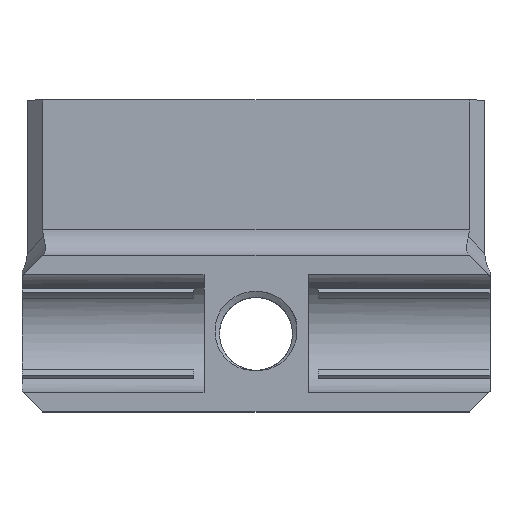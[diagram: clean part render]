
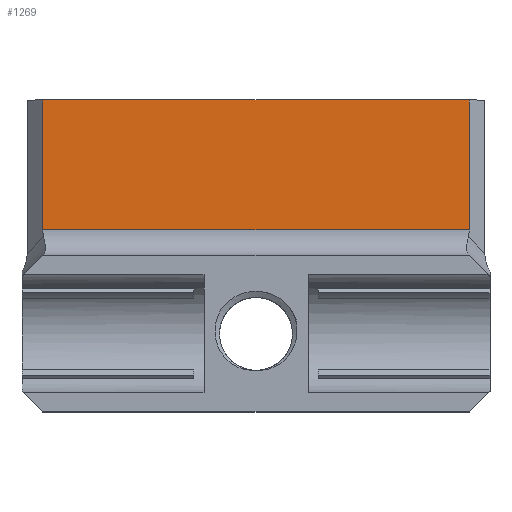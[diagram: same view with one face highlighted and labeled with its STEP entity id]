
A CAD part, top view. The second image highlights one B-rep face of the part: STEP entity #1269.
In plain terms, the highlighted planar face has unit normal (0, 0, 1).
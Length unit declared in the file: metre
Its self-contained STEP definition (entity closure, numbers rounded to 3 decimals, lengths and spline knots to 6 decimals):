
#42=PLANE('',#1368);
#154=LINE('',#2524,#250);
#155=LINE('',#2527,#251);
#156=LINE('',#2529,#252);
#157=LINE('',#2531,#253);
#250=VECTOR('',#1608,1.);
#251=VECTOR('',#1609,1.);
#252=VECTOR('',#1610,1.);
#253=VECTOR('',#1611,1.);
#484=ORIENTED_EDGE('',*,*,#816,.T.);
#485=ORIENTED_EDGE('',*,*,#817,.F.);
#486=ORIENTED_EDGE('',*,*,#818,.T.);
#487=ORIENTED_EDGE('',*,*,#819,.T.);
#816=EDGE_CURVE('',#972,#973,#154,.T.);
#817=EDGE_CURVE('',#974,#973,#155,.T.);
#818=EDGE_CURVE('',#974,#975,#156,.F.);
#819=EDGE_CURVE('',#975,#972,#157,.T.);
#972=VERTEX_POINT('',#2525);
#973=VERTEX_POINT('',#2526);
#974=VERTEX_POINT('',#2528);
#975=VERTEX_POINT('',#2530);
#1102=EDGE_LOOP('',(#484,#485,#486,#487));
#1169=FACE_BOUND('',#1102,.T.);
#1269=ADVANCED_FACE('',(#1169),#42,.T.);
#1368=AXIS2_PLACEMENT_3D('',#2523,#1606,#1607);
#1606=DIRECTION('',(0.,0.,1.));
#1607=DIRECTION('',(1.,0.,0.));
#1608=DIRECTION('',(-1.,0.,0.));
#1609=DIRECTION('',(0.,1.,0.));
#1610=DIRECTION('',(-1.,0.,0.));
#1611=DIRECTION('',(0.,1.,0.));
#2523=CARTESIAN_POINT('',(0.057152,0.034925,0.00381));
#2524=CARTESIAN_POINT('',(0.057152,0.05715,0.00381));
#2525=CARTESIAN_POINT('',(0.05207,0.05715,0.00381));
#2526=CARTESIAN_POINT('',(-0.05207,0.05715,0.00381));
#2527=CARTESIAN_POINT('',(-0.05207,0.034925,0.00381));
#2528=CARTESIAN_POINT('',(-0.05207,0.0254,0.00381));
#2529=CARTESIAN_POINT('',(0.057152,0.0254,0.00381));
#2530=CARTESIAN_POINT('',(0.05207,0.0254,0.00381));
#2531=CARTESIAN_POINT('',(0.05207,0.034925,0.00381));
